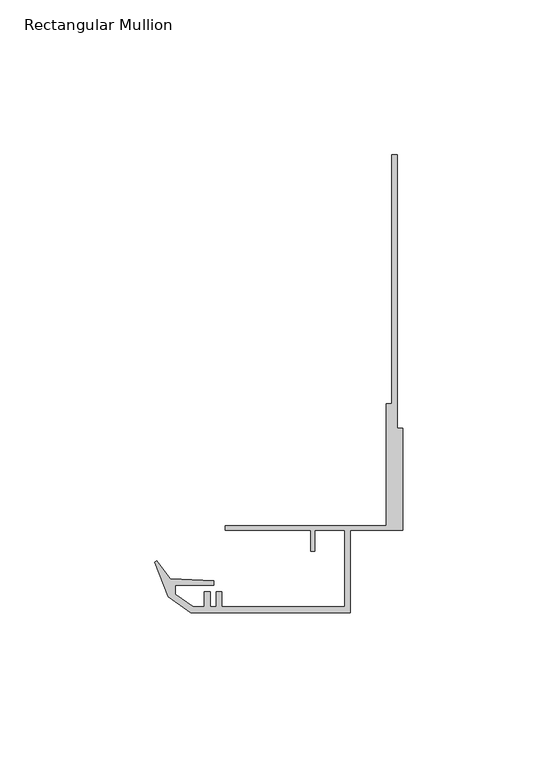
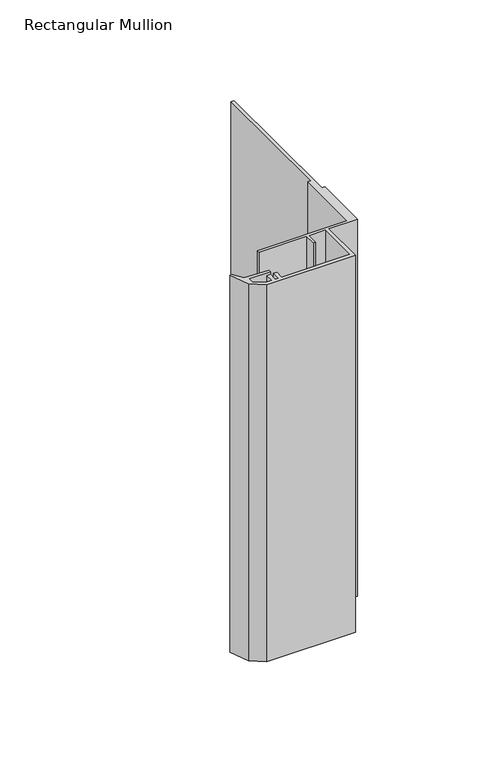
"""IFC4 building model written with IfcOpenShell, lengths in millimetres: member geometry, Rectangular Mullion : Danpal_VRS_Bottom-Mullion."""

from ifc_helpers import new_model, si_unit, frame, origin, place, context, project, spatial, polyline, outline, extrude, source, transform, mapped, element, save


def rectangular_mullion_a9427354(model_context):
    return source(origin(), model_context, "Body", "SweptSolid", [
        extrude(outline(polyline([(-79.2216912, 6.0092055), (-74.8674586, 0.1149337), (-60.8734984, -0.5155366), (-60.8734145, -1.9985848), (-73.2989907, -1.9992875), (-73.2988278, -4.8793924), (-67.5141123, -8.8675052), (-63.9180616, -8.8673018), (-63.9180616, -4.0153253), (-62.0481149, -4.0153253), (-62.0481149, -8.8671961), (-60.1494911, -8.8671961), (-60.1494911, -4.0153253), (-58.2791429, -4.0153253), (-58.2791429, -8.8669829), (-18.5986033, -8.8647387), (-18.6, 15.8302587), (-28.3, 15.8297101), (-28.2996176, 9.0698346), (-29.5996176, 9.069761), (-29.6, 15.8296366), (-57.2163694, 15.8280747), (-57.2163694, 17.230123), (-5.3000793, 17.2330591), (-5.3023089, 56.6572668), (-3.4023089, 56.6573743), (-3.4068448, 136.858186), (-1.6880948, 136.8582832), (-1.6831072, 48.6691587), (-0.0018572, 48.6692538), (0.0, 15.8313106), (-16.7999993, 15.8303605), (-16.7984887, -10.8734616), (-68.3166726, -10.8161429), (-75.6571036, -5.6694173), (-79.8611478, 5.5368244), (-79.2216912, 6.0092055)])), frame((0.0, 0.0, -231.0473223), z_axis=(0.0, 0.0, 1.0), x_axis=(1.0, 0.0, 0.0)), (0.0, 0.0, 1.0), 231.0473223),
    ])


if __name__ == "__main__":
    model = new_model("IFC4")
    model_context = context("Model", 3, world=origin())
    ifc_project = project(units=[si_unit("LENGTHUNIT", "METRE", prefix="MILLI")], contexts=[model_context])
    site = spatial("IfcSite", under=ifc_project)
    building = spatial("IfcBuilding", under=site)
    placement = place(None, origin())
    rectangular_mullion_shape = rectangular_mullion_a9427354(model_context)
    element("IfcMember", 1, ObjectType="Rectangular Mullion : Danpal_VRS_Bottom-Mullion", at=placement, inside=building, context=model_context, shape_type="MappedRepresentation", body=[
        mapped(rectangular_mullion_shape, transform((0.0, 0.0, 0.0), x_axis=(1.0, 0.0, 0.0), y_axis=(0.0, 1.0, 0.0), z_axis=(0.0, 0.0, 1.0))),
    ])
    save(model, "model.ifc")
